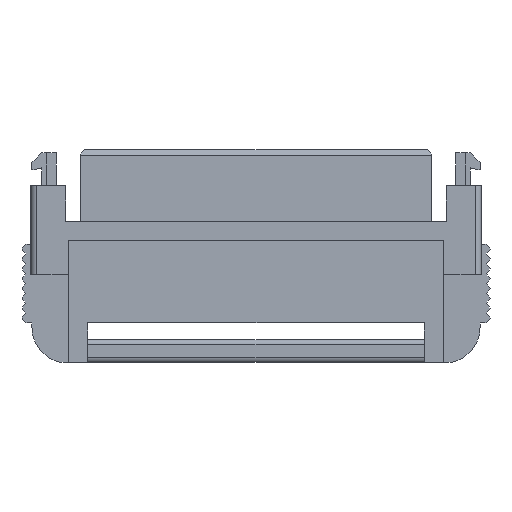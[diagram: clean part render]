
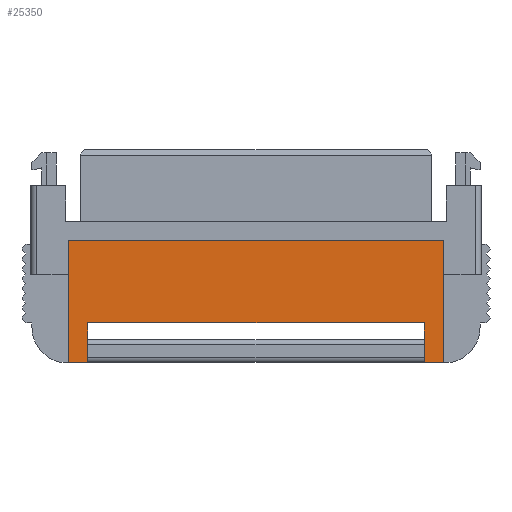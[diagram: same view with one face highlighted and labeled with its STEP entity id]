
A CAD part, front view. The second image highlights one B-rep face of the part: STEP entity #25350.
In plain terms, the highlighted planar face has unit normal (0, -1, 0).
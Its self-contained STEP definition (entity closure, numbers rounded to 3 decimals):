
#24640=CARTESIAN_POINT('',(20.436,-54.156,
7.113));
#24650=DIRECTION('',(0.,1.,0.));
#24660=DIRECTION('',(1.,0.,0.));
#24670=AXIS2_PLACEMENT_3D('',#24640,#24650,#24660);
#24680=PLANE('',#24670);
#24690=CARTESIAN_POINT('',(0.,-54.156,-2.7));
#24700=DIRECTION('',(1.,0.,0.));
#24710=VECTOR('',#24700,1.);
#24720=LINE('',#24690,#24710);
#24730=CARTESIAN_POINT('',(7.26,-54.156,
-2.7));
#24740=VERTEX_POINT('',#24730);
#24750=CARTESIAN_POINT('',(41.4,-54.156,
-2.7));
#24760=VERTEX_POINT('',#24750);
#24770=EDGE_CURVE('',#24740,#24760,#24720,.T.);
#24780=ORIENTED_EDGE('',*,*,#24770,.T.);
#24790=CARTESIAN_POINT('',(7.26,-54.156,
14.857));
#24800=DIRECTION('',(0.,0.,1.));
#24810=VECTOR('',#24800,1.);
#24820=LINE('',#24790,#24810);
#24830=CARTESIAN_POINT('',(7.26,-54.156,
-6.7));
#24840=VERTEX_POINT('',#24830);
#24850=EDGE_CURVE('',#24840,#24740,#24820,.T.);
#24860=ORIENTED_EDGE('',*,*,#24850,.T.);
#24870=CARTESIAN_POINT('',(35.785,-54.156,-6.7));
#24880=DIRECTION('',(-1.,0.,0.));
#24890=VECTOR('',#24880,1.);
#24900=LINE('',#24870,#24890);
#24910=CARTESIAN_POINT('',(5.255,-54.156,-6.7));
#24920=VERTEX_POINT('',#24910);
#24930=EDGE_CURVE('',#24840,#24920,#24900,.T.);
#24940=ORIENTED_EDGE('',*,*,#24930,.F.);
#24950=CARTESIAN_POINT('',(5.255,-54.156,
0.));
#24960=DIRECTION('',(0.,0.,1.));
#24970=VECTOR('',#24960,1.);
#24980=LINE('',#24950,#24970);
#24990=CARTESIAN_POINT('',(5.255,-54.156,
5.7));
#25000=VERTEX_POINT('',#24990);
#25010=EDGE_CURVE('',#24920,#25000,#24980,.T.);
#25020=ORIENTED_EDGE('',*,*,#25010,.F.);
#25030=CARTESIAN_POINT('',(-118.443,-54.156,
5.7));
#25040=DIRECTION('',(-1.,0.,0.));
#25050=VECTOR('',#25040,1.);
#25060=LINE('',#25030,#25050);
#25070=CARTESIAN_POINT('',(43.405,-54.156,
5.7));
#25080=VERTEX_POINT('',#25070);
#25090=EDGE_CURVE('',#25080,#25000,#25060,.T.);
#25100=ORIENTED_EDGE('',*,*,#25090,.T.);
#25110=CARTESIAN_POINT('',(43.405,-54.156,
-2.7));
#25120=DIRECTION('',(0.,0.,1.));
#25130=VECTOR('',#25120,1.);
#25140=LINE('',#25110,#25130);
#25150=CARTESIAN_POINT('',(43.405,-54.156,-6.7));
#25160=VERTEX_POINT('',#25150);
#25170=EDGE_CURVE('',#25160,#25080,#25140,.T.);
#25180=ORIENTED_EDGE('',*,*,#25170,.T.);
#25190=CARTESIAN_POINT('',(43.405,-54.156,-6.7));
#25200=DIRECTION('',(-1.,0.,0.));
#25210=VECTOR('',#25200,1.);
#25220=LINE('',#25190,#25210);
#25230=CARTESIAN_POINT('',(41.4,-54.156,-6.7));
#25240=VERTEX_POINT('',#25230);
#25250=EDGE_CURVE('',#25160,#25240,#25220,.T.);
#25260=ORIENTED_EDGE('',*,*,#25250,.F.);
#25270=CARTESIAN_POINT('',(41.4,-54.156,
14.857));
#25280=DIRECTION('',(0.,0.,-1.));
#25290=VECTOR('',#25280,1.);
#25300=LINE('',#25270,#25290);
#25310=EDGE_CURVE('',#24760,#25240,#25300,.T.);
#25320=ORIENTED_EDGE('',*,*,#25310,.T.);
#25330=EDGE_LOOP('',(#25320,#25260,#25180,#25100,#25020,#24940,#24860,
#24780));
#25340=FACE_OUTER_BOUND('',#25330,.T.);
#25350=ADVANCED_FACE('',(#25340),#24680,.F.);
